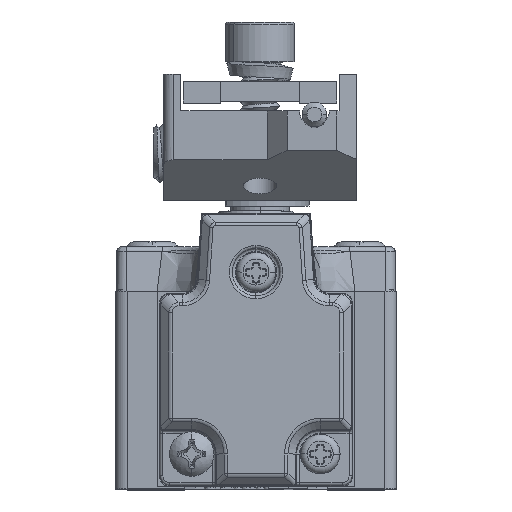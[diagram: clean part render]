
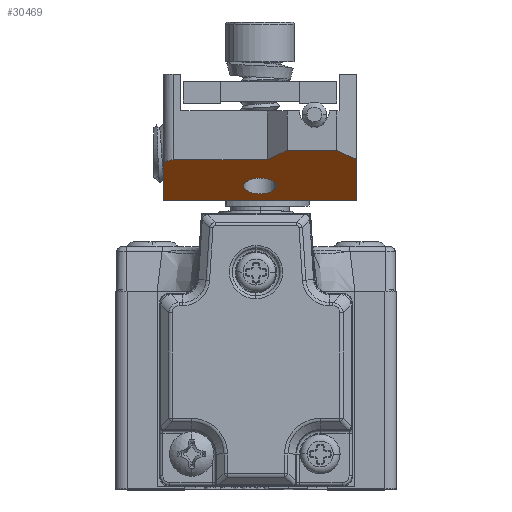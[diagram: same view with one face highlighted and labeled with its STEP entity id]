
A CAD part, top view. The second image highlights one B-rep face of the part: STEP entity #30469.
In plain terms, the highlighted planar face has unit normal (0, -0.903, 0.43).
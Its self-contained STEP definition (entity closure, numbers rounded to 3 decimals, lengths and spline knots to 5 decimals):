
#28783=DIRECTION('',(-1.,0.,0.));
#28784=VECTOR('',#28783,0.19685);
#28785=CARTESIAN_POINT('',(0.32112,1.34646,
0.98981));
#28786=LINE('',#28785,#28784);
#28899=DIRECTION('',(-1.,0.,0.));
#28900=VECTOR('',#28899,0.37402);
#28901=CARTESIAN_POINT('',(0.04553,1.30896,
0.91107));
#28902=LINE('',#28901,#28900);
#28913=DIRECTION('',(0.,-0.43,-0.903));
#28914=VECTOR('',#28913,0.32704);
#28915=CARTESIAN_POINT('',(-0.36786,1.29021,
0.8717));
#28916=LINE('',#28915,#28914);
#28958=DIRECTION('',(0.67,0.319,0.67));
#28959=VECTOR('',#28958,0.1175);
#28960=CARTESIAN_POINT('',(0.04553,1.30896,
0.91107));
#28961=LINE('',#28960,#28959);
#28962=DIRECTION('',(0.689,-0.312,-0.654));
#28963=VECTOR('',#28962,0.1143);
#28964=CARTESIAN_POINT('',(0.32112,1.34646,
0.98981));
#28965=LINE('',#28964,#28963);
#28966=CARTESIAN_POINT('',(0.08096,1.20585,
0.69453));
#28967=CARTESIAN_POINT('',(0.08096,1.20949,
0.70219));
#28968=CARTESIAN_POINT('',(0.07817,1.21737,
0.71873));
#28969=CARTESIAN_POINT('',(0.06335,1.22838,
0.74184));
#28970=CARTESIAN_POINT('',(0.04003,1.23546,
0.75672));
#28971=CARTESIAN_POINT('',(0.016,1.23744,
0.76088));
#28972=CARTESIAN_POINT('',(-0.00803,1.23546,
0.75672));
#28973=CARTESIAN_POINT('',(-0.03135,1.22838,
0.74184));
#28974=CARTESIAN_POINT('',(-0.04617,1.21737,
0.71873));
#28975=CARTESIAN_POINT('',(-0.04896,1.20949,
0.70219));
#28976=CARTESIAN_POINT('',(-0.04896,1.20585,
0.69453));
#28978=CARTESIAN_POINT('',(-0.04896,1.20585,
0.69453));
#28979=CARTESIAN_POINT('',(-0.04896,1.2022,
0.68688));
#28980=CARTESIAN_POINT('',(-0.04617,1.19433,
0.67034));
#28981=CARTESIAN_POINT('',(-0.03135,1.18332,
0.64723));
#28982=CARTESIAN_POINT('',(-0.00803,1.17624,
0.63235));
#28983=CARTESIAN_POINT('',(0.016,1.17425,
0.62818));
#28984=CARTESIAN_POINT('',(0.04003,1.17624,
0.63235));
#28985=CARTESIAN_POINT('',(0.06335,1.18332,
0.64723));
#28986=CARTESIAN_POINT('',(0.07817,1.19433,
0.67034));
#28987=CARTESIAN_POINT('',(0.08096,1.2022,
0.68688));
#28988=CARTESIAN_POINT('',(0.08096,1.20585,
0.69453));
#29023=DIRECTION('',(0.,0.43,0.903));
#29024=VECTOR('',#29023,0.37501);
#29025=CARTESIAN_POINT('',(0.39986,1.14961,
0.57642));
#29026=LINE('',#29025,#29024);
#29044=DIRECTION('',(-1.,0.,0.));
#29045=VECTOR('',#29044,0.76772);
#29046=CARTESIAN_POINT('',(0.39986,1.14961,
0.57642));
#29047=LINE('',#29046,#29045);
#29563=CARTESIAN_POINT('',(-0.32849,1.30896,
0.91107));
#29564=CARTESIAN_POINT('',(-0.3354,1.30896,
0.91107));
#29565=CARTESIAN_POINT('',(-0.34585,1.30751,
0.90802));
#29566=CARTESIAN_POINT('',(-0.36105,1.30215,
0.89676));
#29567=CARTESIAN_POINT('',(-0.36786,1.29616,
0.88418));
#29568=CARTESIAN_POINT('',(-0.36786,1.29021,
0.8717));
#29991=CARTESIAN_POINT('',(-0.32849,1.30896,
0.91107));
#29992=VERTEX_POINT('',#29991);
#29993=VERTEX_POINT('',#29568);
#30002=CARTESIAN_POINT('',(-0.36786,1.14961,
0.57642));
#30003=VERTEX_POINT('',#30002);
#30006=CARTESIAN_POINT('',(0.04553,1.30896,
0.91107));
#30007=VERTEX_POINT('',#30006);
#30008=CARTESIAN_POINT('',(0.39986,1.14961,
0.57642));
#30009=VERTEX_POINT('',#30008);
#30010=CARTESIAN_POINT('',(0.39986,1.31084,
0.915));
#30011=VERTEX_POINT('',#30010);
#30012=CARTESIAN_POINT('',(0.32112,1.34646,
0.98981));
#30013=VERTEX_POINT('',#30012);
#30014=CARTESIAN_POINT('',(0.12427,1.34646,
0.98981));
#30015=VERTEX_POINT('',#30014);
#30016=VERTEX_POINT('',#28966);
#30017=VERTEX_POINT('',#28976);
#30444=CARTESIAN_POINT('',(0.016,1.24803,
0.78311));
#30445=DIRECTION('',(0.,0.903,-0.43));
#30446=DIRECTION('',(0.,0.43,0.903));
#30447=AXIS2_PLACEMENT_3D('',#30444,#30445,#30446);
#30448=PLANE('',#30447);
#30449=ORIENTED_EDGE('',*,*,#30392,.F.);
#30450=ORIENTED_EDGE('',*,*,#30376,.T.);
#30451=ORIENTED_EDGE('',*,*,#30270,.F.);
#30453=ORIENTED_EDGE('',*,*,#30452,.T.);
#30455=ORIENTED_EDGE('',*,*,#30454,.F.);
#30457=ORIENTED_EDGE('',*,*,#30456,.T.);
#30458=ORIENTED_EDGE('',*,*,#30422,.F.);
#30460=ORIENTED_EDGE('',*,*,#30459,.F.);
#30461=EDGE_LOOP('',(#30449,#30450,#30451,#30453,#30455,#30457,#30458,#30460));
#30462=FACE_OUTER_BOUND('',#30461,.F.);
#30464=ORIENTED_EDGE('',*,*,#30463,.T.);
#30466=ORIENTED_EDGE('',*,*,#30465,.T.);
#30467=EDGE_LOOP('',(#30464,#30466));
#30468=FACE_BOUND('',#30467,.F.);
#30469=ADVANCED_FACE('',(#30462,#30468),#30448,.F.);
#28977=B_SPLINE_CURVE_WITH_KNOTS('',3,(#28966,#28967,#28968,#28969,#28970,
#28971,#28972,#28973,#28974,#28975,#28976),.UNSPECIFIED.,.F.,.F.,(4,1,1,1,1,1,1,
1,4),(0.,0.125,0.25,0.375,0.5,0.625,0.75,0.875,1.),
.UNSPECIFIED.);
#28989=B_SPLINE_CURVE_WITH_KNOTS('',3,(#28978,#28979,#28980,#28981,#28982,
#28983,#28984,#28985,#28986,#28987,#28988),.UNSPECIFIED.,.F.,.F.,(4,1,1,1,1,1,1,
1,4),(0.,0.125,0.25,0.375,0.5,0.625,0.75,0.875,1.),
.UNSPECIFIED.);
#29569=B_SPLINE_CURVE_WITH_KNOTS('',3,(#29563,#29564,#29565,#29566,#29567,
#29568),.UNSPECIFIED.,.F.,.F.,(4,1,1,4),(0.,0.25,0.5,1.),.UNSPECIFIED.);
#30270=EDGE_CURVE('',#30013,#30015,#28786,.T.);
#30376=EDGE_CURVE('',#30007,#30015,#28961,.T.);
#30392=EDGE_CURVE('',#30007,#29992,#28902,.T.);
#30422=EDGE_CURVE('',#29993,#30003,#28916,.T.);
#30452=EDGE_CURVE('',#30013,#30011,#28965,.T.);
#30454=EDGE_CURVE('',#30009,#30011,#29026,.T.);
#30456=EDGE_CURVE('',#30009,#30003,#29047,.T.);
#30459=EDGE_CURVE('',#29992,#29993,#29569,.T.);
#30463=EDGE_CURVE('',#30016,#30017,#28977,.T.);
#30465=EDGE_CURVE('',#30017,#30016,#28989,.T.);
